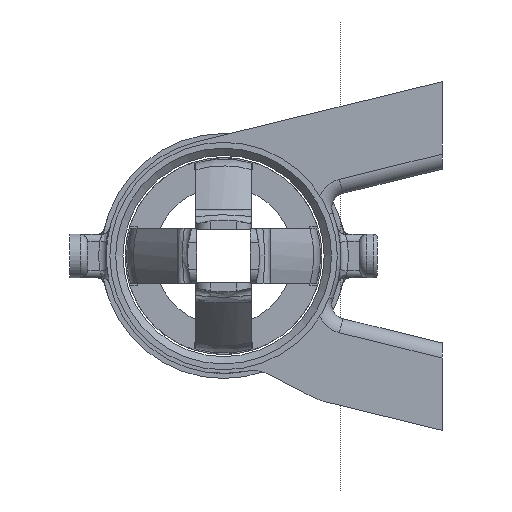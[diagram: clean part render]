
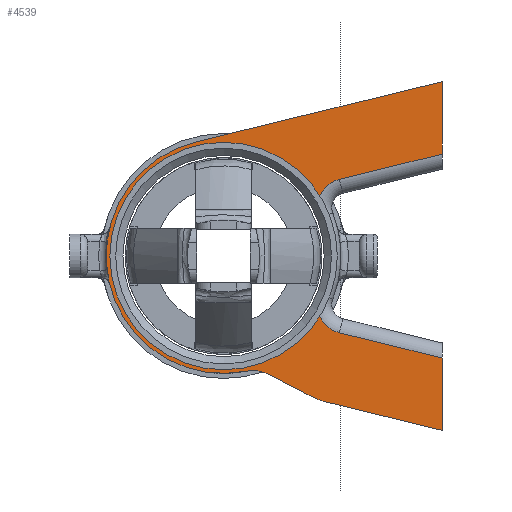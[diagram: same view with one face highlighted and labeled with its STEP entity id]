
A CAD part, left-side view. The second image highlights one B-rep face of the part: STEP entity #4539.
In plain terms, the highlighted planar face has unit normal (-1, 0, 0).
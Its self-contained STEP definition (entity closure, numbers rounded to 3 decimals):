
#182=PLANE('',#5013);
#407=CIRCLE('',#4939,4.);
#413=CIRCLE('',#4949,4.);
#447=CIRCLE('',#5012,5.);
#448=CIRCLE('',#5014,16.1);
#449=CIRCLE('',#5015,5.);
#450=CIRCLE('',#5016,14.1);
#451=CIRCLE('',#5017,14.1);
#708=FACE_OUTER_BOUND('',#989,.T.);
#989=EDGE_LOOP('',(#4037,#4038,#4039,#4040,#4041,#4042,#4043,#4044,#4045,
#4046,#4047,#4048,#4049,#4050));
#1232=LINE('',#9822,#1494);
#1237=LINE('',#9832,#1499);
#1244=LINE('',#9856,#1506);
#1250=LINE('',#9910,#1512);
#1259=LINE('',#9950,#1521);
#1260=LINE('',#9955,#1522);
#1261=LINE('',#9956,#1523);
#1494=VECTOR('',#6005,10.);
#1499=VECTOR('',#6016,10.);
#1506=VECTOR('',#6039,10.);
#1512=VECTOR('',#6073,10.);
#1521=VECTOR('',#6122,10.);
#1522=VECTOR('',#6127,10.);
#1523=VECTOR('',#6128,10.);
#2064=VERTEX_POINT('',#9765);
#2065=VERTEX_POINT('',#9767);
#2072=VERTEX_POINT('',#9786);
#2073=VERTEX_POINT('',#9787);
#2083=VERTEX_POINT('',#9820);
#2084=VERTEX_POINT('',#9828);
#2094=VERTEX_POINT('',#9855);
#2107=VERTEX_POINT('',#9908);
#2116=VERTEX_POINT('',#9943);
#2117=VERTEX_POINT('',#9945);
#2118=VERTEX_POINT('',#9949);
#2119=VERTEX_POINT('',#9951);
#2120=VERTEX_POINT('',#9953);
#2121=VERTEX_POINT('',#9957);
#2692=EDGE_CURVE('',#2064,#2065,#407,.T.);
#2701=EDGE_CURVE('',#2072,#2073,#413,.T.);
#2719=EDGE_CURVE('',#2083,#2072,#1232,.T.);
#2725=EDGE_CURVE('',#2065,#2084,#1237,.T.);
#2737=EDGE_CURVE('',#2094,#2084,#1244,.T.);
#2755=EDGE_CURVE('',#2083,#2107,#1250,.T.);
#2771=EDGE_CURVE('',#2116,#2117,#447,.T.);
#2773=EDGE_CURVE('',#2107,#2118,#1259,.T.);
#2774=EDGE_CURVE('',#2119,#2118,#448,.T.);
#2775=EDGE_CURVE('',#2120,#2119,#449,.T.);
#2776=EDGE_CURVE('',#2120,#2117,#1260,.T.);
#2777=EDGE_CURVE('',#2116,#2094,#1261,.T.);
#2778=EDGE_CURVE('',#2121,#2064,#450,.T.);
#2779=EDGE_CURVE('',#2073,#2121,#451,.T.);
#4037=ORIENTED_EDGE('',*,*,#2719,.F.);
#4038=ORIENTED_EDGE('',*,*,#2755,.T.);
#4039=ORIENTED_EDGE('',*,*,#2773,.T.);
#4040=ORIENTED_EDGE('',*,*,#2774,.F.);
#4041=ORIENTED_EDGE('',*,*,#2775,.F.);
#4042=ORIENTED_EDGE('',*,*,#2776,.T.);
#4043=ORIENTED_EDGE('',*,*,#2771,.F.);
#4044=ORIENTED_EDGE('',*,*,#2777,.T.);
#4045=ORIENTED_EDGE('',*,*,#2737,.T.);
#4046=ORIENTED_EDGE('',*,*,#2725,.F.);
#4047=ORIENTED_EDGE('',*,*,#2692,.F.);
#4048=ORIENTED_EDGE('',*,*,#2778,.F.);
#4049=ORIENTED_EDGE('',*,*,#2779,.F.);
#4050=ORIENTED_EDGE('',*,*,#2701,.F.);
#4539=ADVANCED_FACE('',(#708),#182,.F.);
#4939=AXIS2_PLACEMENT_3D('',#9768,#5939,#5940);
#4949=AXIS2_PLACEMENT_3D('',#9788,#5961,#5962);
#5012=AXIS2_PLACEMENT_3D('',#9946,#6117,#6118);
#5013=AXIS2_PLACEMENT_3D('',#9948,#6120,#6121);
#5014=AXIS2_PLACEMENT_3D('',#9952,#6123,#6124);
#5015=AXIS2_PLACEMENT_3D('',#9954,#6125,#6126);
#5016=AXIS2_PLACEMENT_3D('',#9958,#6129,#6130);
#5017=AXIS2_PLACEMENT_3D('',#9959,#6131,#6132);
#5939=DIRECTION('center_axis',(-1.,0.,0.));
#5940=DIRECTION('ref_axis',(0.,0.888,-0.459));
#5961=DIRECTION('center_axis',(-1.,0.,0.));
#5962=DIRECTION('ref_axis',(0.,0.888,0.459));
#6005=DIRECTION('',(0.,0.971,-0.238));
#6016=DIRECTION('',(0.,-0.971,-0.238));
#6039=DIRECTION('',(0.,0.,1.));
#6073=DIRECTION('',(0.,0.,1.));
#6117=DIRECTION('center_axis',(1.,0.,0.));
#6118=DIRECTION('ref_axis',(0.,0.351,-0.936));
#6120=DIRECTION('center_axis',(1.,0.,0.));
#6121=DIRECTION('ref_axis',(0.,0.,-1.));
#6122=DIRECTION('',(0.,0.971,-0.238));
#6123=DIRECTION('center_axis',(1.,0.,0.));
#6124=DIRECTION('ref_axis',(0.,0.,-1.));
#6125=DIRECTION('center_axis',(-1.,0.,0.));
#6126=DIRECTION('ref_axis',(0.,-0.143,0.99));
#6127=DIRECTION('',(0.,-0.888,-0.459));
#6128=DIRECTION('',(0.,-0.971,-0.238));
#6129=DIRECTION('center_axis',(-1.,0.,0.));
#6130=DIRECTION('ref_axis',(0.,0.,1.));
#6131=DIRECTION('center_axis',(-1.,0.,0.));
#6132=DIRECTION('ref_axis',(0.,0.,1.));
#9765=CARTESIAN_POINT('',(-64.,-13.116,-5.175));
#9767=CARTESIAN_POINT('',(-64.,-15.885,-10.528));
#9768=CARTESIAN_POINT('Origin',(-64.,-16.837,-6.643));
#9786=CARTESIAN_POINT('',(-64.,-15.885,10.528));
#9787=CARTESIAN_POINT('',(-64.,-13.116,5.175));
#9788=CARTESIAN_POINT('Origin',(-64.,-16.837,6.643));
#9820=CARTESIAN_POINT('',(-64.,-30.,13.987));
#9822=CARTESIAN_POINT('',(-64.,-5.981,8.101));
#9828=CARTESIAN_POINT('',(-64.,-30.,-13.987));
#9832=CARTESIAN_POINT('',(-64.,-13.995,-10.065));
#9855=CARTESIAN_POINT('',(-64.,-30.,-23.928));
#9856=CARTESIAN_POINT('',(-64.,-30.,-11.964));
#9908=CARTESIAN_POINT('',(-64.,-30.,23.928));
#9910=CARTESIAN_POINT('',(-64.,-30.,5.964));
#9943=CARTESIAN_POINT('',(-64.,-13.661,-19.924));
#9945=CARTESIAN_POINT('',(-64.,-12.556,-19.51));
#9946=CARTESIAN_POINT('Origin',(-64.,-14.851,-15.068));
#9948=CARTESIAN_POINT('Origin',(-64.,0.,0.));
#9949=CARTESIAN_POINT('',(-64.,3.832,15.637));
#9950=CARTESIAN_POINT('',(-64.,-19.256,21.295));
#9951=CARTESIAN_POINT('',(-64.,-3.053,-15.808));
#9952=CARTESIAN_POINT('Origin',(-64.,0.,0.));
#9953=CARTESIAN_POINT('',(-64.,-6.296,-16.275));
#9954=CARTESIAN_POINT('Origin',(-64.,-4.001,-20.717));
#9955=CARTESIAN_POINT('',(-64.,-3.887,-15.03));
#9956=CARTESIAN_POINT('',(-64.,-2.34,-17.15));
#9957=CARTESIAN_POINT('',(-64.,0.,-14.1));
#9958=CARTESIAN_POINT('Origin',(-64.,0.,0.));
#9959=CARTESIAN_POINT('Origin',(-64.,0.,0.));
